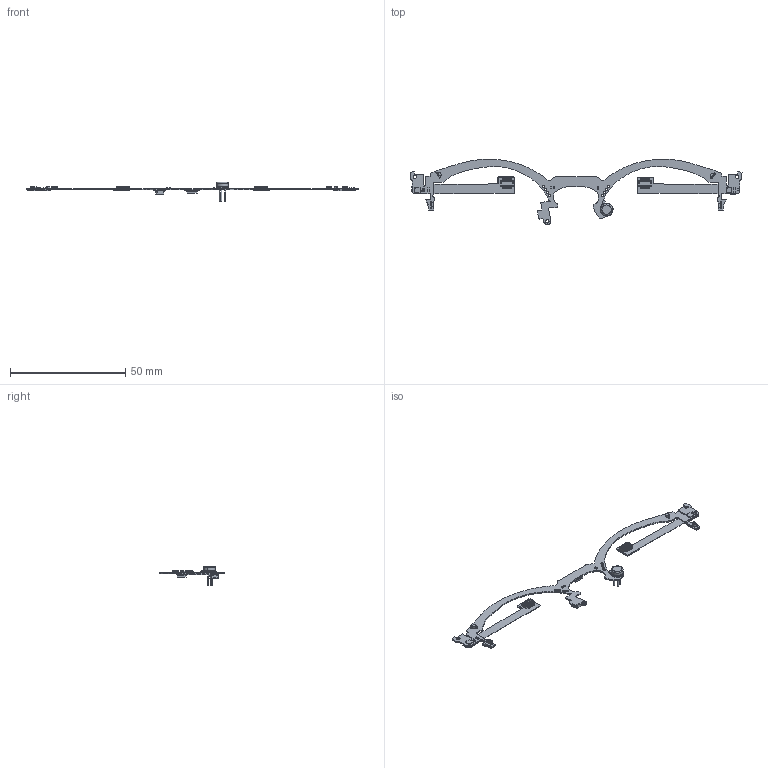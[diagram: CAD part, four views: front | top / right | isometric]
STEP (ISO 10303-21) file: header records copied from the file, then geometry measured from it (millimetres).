
FILE_DESCRIPTION(('Open CASCADE Model'),'2;1');
FILE_NAME('Open CASCADE Shape Model','2019-08-31T20:43:21',('Author'),( 'Open CASCADE'),'Open CASCADE STEP processor 6.8','Open CASCADE 6.8' ,'Unknown');
FILE_SCHEMA(('AUTOMOTIVE_DESIGN { 1 0 10303 214 1 1 1 1 }'));
Products named in the file (1): PCB
Bounding box: 143.96 x 28.34 x 8.33 mm (x, y, z)
Volume: 595.2 mm3; surface area: 3554.6 mm2
Topology: 163 solids, 498 shells, 3681 faces, 11319 edges, 8478 vertices
Faces by surface type: plane 3176, cylinder 419, sphere 50, bspline 24, torus 12
Full cylindrical faces by diameter (mm): 0.282 x2, 0.7 x4, 1 x8
Entity records: 131824 total; most frequent: CARTESIAN_POINT 26523, ORIENTED_EDGE 20070, DIRECTION 19337, EDGE_CURVE 10797, LINE 10037, VECTOR 10037, VERTEX_POINT 7684, AXIS2_PLACEMENT_3D 4650
